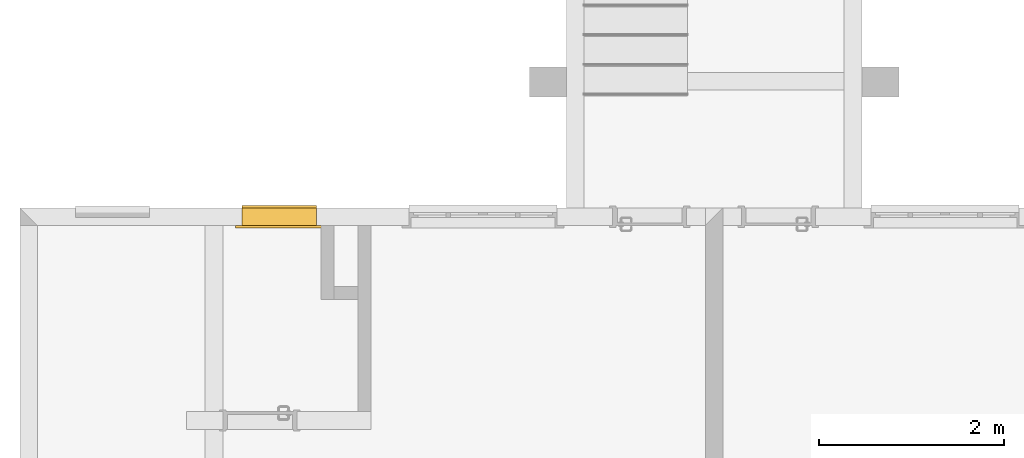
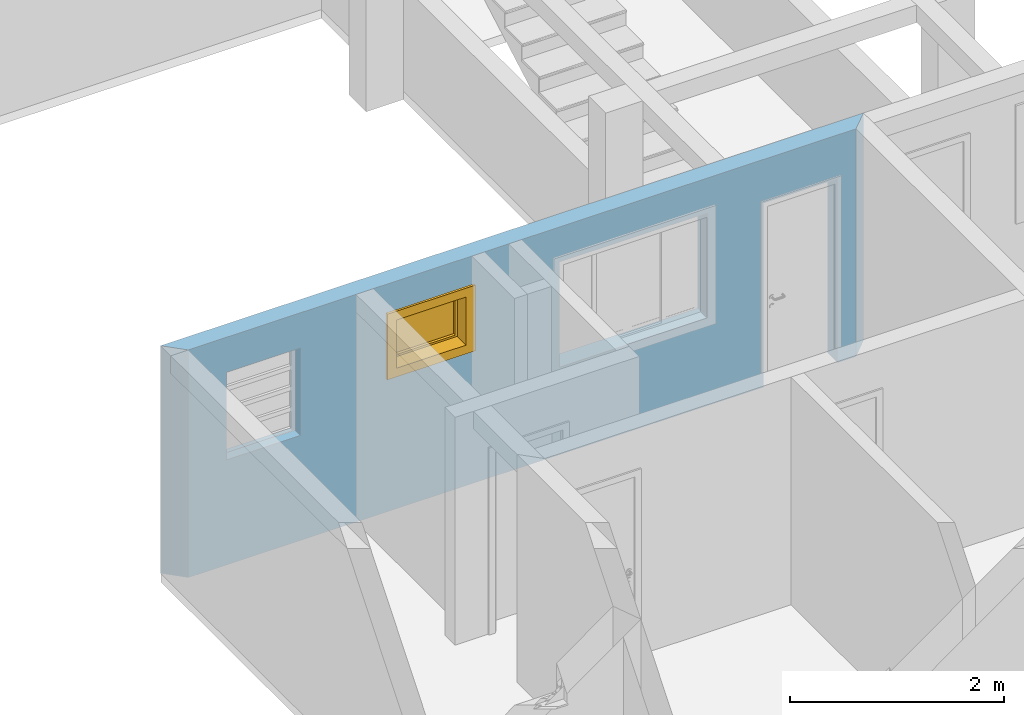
# One storey, part 13 of 47: 1 window, 4 openings, plus 1 element that does not belong to this part.
"""IFC2X3 building model written with IfcOpenShell, lengths in millimetres."""

from ifc_helpers import new_model, entity, si_unit, converted_unit, derived_unit, money_unit, direction, frame, origin_with_axes, origin_2d_with_axis, place, context, subcontext, project, spatial, polyline, rectangle, outline, extrude, open_shell, faceted_brep, surface_model, source, transform, mapped, material, layer, layer_set, layer_usage, type_object, element, fill, save


model = new_model("IFC2X3")

# Units and contexts
model_context = context("Model", 3, precision=0.01, world=origin_with_axes(), true_north=direction((0.0, 1.0)))
body_context = subcontext(model_context, "Body", "Model", "MODEL_VIEW")
ifc_project = project(units=[si_unit("LENGTHUNIT", "METRE", prefix="MILLI"), si_unit("AREAUNIT", "SQUARE_METRE"), si_unit("VOLUMEUNIT", "CUBIC_METRE"), converted_unit("PLANEANGLEUNIT", "DEGREE", entity("IfcPlaneAngleMeasure", 0.0174532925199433), si_unit("PLANEANGLEUNIT", "RADIAN"), dimensions=[0, 0, 0, 0, 0, 0, 0]), money_unit("USD"), converted_unit("TIMEUNIT", "Year", entity("IfcTimeMeasure", 31557600.0), si_unit("TIMEUNIT", "SECOND"), dimensions=[0, 0, 1, 0, 0, 0, 0]), si_unit("MASSUNIT", "GRAM", prefix="KILO"), si_unit("THERMODYNAMICTEMPERATUREUNIT", "DEGREE_CELSIUS"), si_unit("LUMINOUSINTENSITYUNIT", "LUMEN"), si_unit("ENERGYUNIT", "JOULE", prefix="MEGA"), derived_unit("THERMALCONDUCTANCEUNIT", [(si_unit("POWERUNIT", "WATT"), 1), (si_unit("LENGTHUNIT", "METRE"), -1), (si_unit("THERMODYNAMICTEMPERATUREUNIT", "KELVIN"), -1)]), derived_unit("SPECIFICHEATCAPACITYUNIT", [(si_unit("ENERGYUNIT", "JOULE"), 1), (si_unit("MASSUNIT", "GRAM", prefix="KILO"), -1), (si_unit("THERMODYNAMICTEMPERATUREUNIT", "KELVIN"), -1)]), derived_unit("MASSDENSITYUNIT", [(si_unit("MASSUNIT", "GRAM", prefix="KILO"), 1), (si_unit("VOLUMEUNIT", "CUBIC_METRE"), -1)])], contexts=[model_context])

# Site, building, storey
site_placement = place(None, origin_with_axes())
site = spatial("IfcSite", under=ifc_project, at=site_placement, Name="Local", CompositionType="ELEMENT")
building_placement = place(site_placement, origin_with_axes())
building = spatial("IfcBuilding", under=site, at=building_placement, Name="Construção", CompositionType="ELEMENT")
storey_placement = place(building_placement, origin_with_axes())
storey = spatial("IfcBuildingStorey", under=building, at=storey_placement, Name="Pavimento Tipo", CompositionType="ELEMENT", Elevation=0.0)

# Wall, openings, window
ifc_material = material(Name="Concreto - Estrutural")
ifc_layer = layer(ifc_material, 190.0, ventilated="UNKNOWN")
ifc_layer_set = layer_set([ifc_layer], Name="Concreto - Estrutural 190")
ifc_layer_usage = layer_usage(ifc_layer_set, "AXIS2", "NEGATIVE", 190.0)
wall_type = type_object("IfcWallType", Name="Concreto - Estrutural 190", PredefinedType="NOTDEFINED")
wall_placement = place(storey_placement, frame((852.5669975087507, 5186.981417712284, 0.0), z_axis=(0.0, 0.0, 1.0), x_axis=(-1.0, 0.0, 0.0)))
wall = element("IfcWallStandardCase", 1, at=wall_placement, inside=storey, type_object=wall_type, material=ifc_layer_usage, Name="Apartamento 3 - Parede-003", context=body_context, shape_type="SweptSolid", body=[
    extrude(outline(polyline([(-190.0000000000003, 0.0), (7399.999999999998, 0.0), (7209.999999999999, 190.0000000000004), (0.0, 190.0000000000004), (-190.0000000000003, 0.0)])), origin_with_axes(), (0.0, 0.0, 1.0), 2600.0),
])
opening_1_placement = place(wall_placement, frame((2400.0, 0.0, 1000.0), z_axis=(0.0, 0.0, 1.0), x_axis=(1.0, 0.0, 0.0)))
element("IfcOpeningElement", 2, at=opening_1_placement, cuts=wall, Name="Apartamento 3 - J01", context=body_context, shape_type="SweptSolid", body=[
    extrude(rectangle(XDim=1600.0, YDim=1200.0, at=origin_2d_with_axis()), frame((0.0, 50.00000000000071, 600.0000000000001), z_axis=(0.0, 1.0, 0.0), x_axis=(1.0, 0.0, 0.0)), (0.0, 0.0, 1.0), 330.0),
    extrude(rectangle(XDim=1600.0, YDim=1200.0, at=origin_2d_with_axis()), frame((0.0, 50.00000000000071, 600.0000000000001), z_axis=(0.0, -1.0, 0.0), x_axis=(1.0, 0.0, 0.0)), (0.0, 0.0, 1.0), 240.0),
    extrude(rectangle(XDim=1750.0, YDim=1350.0, at=origin_2d_with_axis()), frame((0.0, 190.0000000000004, 599.9999999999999), z_axis=(0.0, 1.0, 0.0), x_axis=(1.0, 0.0, 0.0)), (0.0, 0.0, 1.0), 240.0),
])
opening_2_placement = place(wall_placement, frame((4600.0, 0.0, 1600.0), z_axis=(0.0, 0.0, 1.0), x_axis=(1.0, 0.0, 0.0)))
opening_2 = element("IfcOpeningElement", 3, at=opening_2_placement, cuts=wall, Name="Apartamento 3 - J02", context=body_context, shape_type="SweptSolid", body=[
    extrude(rectangle(XDim=799.9999999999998, YDim=599.9999999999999, at=origin_2d_with_axis()), frame((0.0, 190.0000000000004, 299.9999999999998), z_axis=(0.0, -1.0, 0.0), x_axis=(-1.0, 0.0, 0.0)), (0.0, 0.0, 1.0), 570.0000000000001),
    extrude(rectangle(XDim=799.9999999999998, YDim=30.00000000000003, at=origin_2d_with_axis()), frame((0.0, 35.00000000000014, -15.00000000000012), z_axis=(0.0, 1.0, 0.0), x_axis=(-1.0, 0.0, 0.0)), (0.0, 0.0, -1.0), 225.0),
    extrude(rectangle(XDim=949.9999999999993, YDim=750.0000000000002, at=origin_2d_with_axis()), frame((0.0, 190.0000000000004, 300.0000000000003), z_axis=(0.0, -1.0, 0.0), x_axis=(-1.0, 0.0, 0.0)), (0.0, 0.0, -1.0), 190.0),
])
opening_3_placement = place(wall_placement, frame((6399.999999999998, 0.0, 1200.0), z_axis=(0.0, 0.0, 1.0), x_axis=(1.0, 0.0, 0.0)))
element("IfcOpeningElement", 4, at=opening_3_placement, cuts=wall, Name="Apartamento 3 - J03", context=body_context, shape_type="SweptSolid", body=[
    extrude(rectangle(XDim=800.0000000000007, YDim=999.9999999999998, at=origin_2d_with_axis()), frame((0.0, 50.00000000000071, 500.0), z_axis=(0.0, -1.0, 0.0), x_axis=(-1.0, 0.0, 0.0)), (0.0, 0.0, -1.0), 330.0),
    extrude(rectangle(XDim=800.0000000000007, YDim=999.9999999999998, at=origin_2d_with_axis()), frame((0.0, 50.00000000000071, 500.0), z_axis=(0.0, 1.0, 0.0), x_axis=(-1.0, 0.0, 0.0)), (0.0, 0.0, -1.0), 240.0),
    extrude(rectangle(XDim=800.0000000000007, YDim=30.00000000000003, at=origin_2d_with_axis()), frame((0.0, 85.00000000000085, -15.00000000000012), z_axis=(0.0, 1.0, 0.0), x_axis=(-1.0, 0.0, 0.0)), (0.0, 0.0, -1.0), 225.0),
])
opening_4_placement = place(wall_placement, frame((600.0000000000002, 0.0, 0.0), z_axis=(0.0, 0.0, 1.0), x_axis=(1.0, 0.0, 0.0)))
element("IfcOpeningElement", 5, at=opening_4_placement, cuts=wall, Name="Apartamento 3 - P01", context=body_context, shape_type="SweptSolid", body=[
    extrude(rectangle(XDim=800.0, YDim=2100.0, at=origin_2d_with_axis()), frame((0.0, 190.0000000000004, 1050.0), z_axis=(0.0, 1.0, 0.0), x_axis=(-1.0, 0.0, 0.0)), (0.0, 0.0, -1.0), 570.0000000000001),
    extrude(rectangle(XDim=870.0000000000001, YDim=2135.0, at=origin_2d_with_axis()), frame((0.0, 190.0000000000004, 1067.5), z_axis=(0.0, 1.0, 0.0), x_axis=(-1.0, 0.0, 0.0)), (0.0, 0.0, 1.0), 190.0),
    extrude(rectangle(XDim=870.0000000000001, YDim=2135.0, at=origin_2d_with_axis()), frame((0.0, 0.0, 1067.5), z_axis=(0.0, -1.0, 0.0), x_axis=(-1.0, 0.0, 0.0)), (0.0, 0.0, 1.0), 190.0),
])
window_style = type_object("IfcWindowStyle", Name="Janela 27", ConstructionType="NOTDEFINED", OperationType="SINGLE_PANEL", ParameterTakesPrecedence=False, Sizeable=False)
shared_shape = source(origin_with_axes(), body_context, "Body", "SurfaceModel", [
    faceted_brep([(-400.0, -34.99999999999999, 0.0), (400.0, -34.99999999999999, 0.0), (400.0, -24.99999999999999, 0.0), (-400.0, -24.99999999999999, 0.0), (-400.0, -34.99999999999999, -30.0), (400.0, -34.99999999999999, -29.99999999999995), (400.0, 25.0, -29.99999999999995), (400.0, 25.0, -17.02704173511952), (400.0, -24.99999999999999, -9.999999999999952), (-400.0, -24.99999999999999, -10.0), (-400.0, 25.0, -17.02704173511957), (-400.0, 25.0, -30.0)], [[[0, 1, 2, 3]], [[4, 5, 1, 0]], [[1, 5, 6, 7, 8, 2]], [[3, 2, 8, 9]], [[0, 3, 9, 10, 11, 4]], [[11, 6, 5, 4]], [[10, 7, 6, 11]], [[9, 8, 7, 10]]]),
    faceted_brep([(-400.0, -49.99999999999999, 0.0), (400.0, -49.99999999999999, 0.0), (400.0, -190.0, 0.0), (-400.0, -190.0, 0.0), (-400.0, -50.00000000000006, 600.0), (400.0, -50.00000000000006, 600.0), (-375.0, -49.99999999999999, 24.99999999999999), (375.0, -49.99999999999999, 24.99999999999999), (375.0, -50.00000000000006, 575.0), (-375.0, -50.00000000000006, 575.0), (400.0, -190.0000000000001, 600.0), (-400.0, -190.0000000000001, 600.0), (-375.0, -190.0, 24.99999999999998), (-375.0, -190.0000000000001, 575.0), (375.0, -190.0000000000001, 575.0), (375.0, -190.0, 24.99999999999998)], [[[0, 1, 2, 3]], [[0, 4, 5, 1], [6, 7, 8, 9]], [[1, 5, 10, 2]], [[3, 2, 10, 11], [12, 13, 14, 15]], [[4, 0, 3, 11]], [[5, 4, 11, 10]], [[7, 6, 12, 15]], [[8, 7, 15, 14]], [[9, 8, 14, 13]], [[6, 9, 13, 12]]]),
    faceted_brep([(-475.0, -215.0, -75.00000000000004), (-475.0, -190.0, -75.00000000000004), (-375.0, -190.0, 24.99999999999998), (-375.0, -215.0, 24.99999999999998), (-475.0, -215.0000000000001, 675.0), (-475.0, -190.0000000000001, 675.0), (-375.0, -190.0000000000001, 575.0), (-375.0, -215.0000000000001, 575.0)], [[[0, 1, 2, 3]], [[4, 5, 1, 0]], [[1, 5, 6, 2]], [[3, 2, 6, 7]], [[0, 3, 7, 4]], [[7, 6, 5, 4]]]),
    faceted_brep([(475.0, -215.0000000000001, 675.0), (475.0, -190.0000000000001, 675.0), (375.0, -190.0000000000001, 575.0), (375.0, -215.0000000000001, 575.0), (475.0, -215.0, -75.00000000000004), (475.0, -190.0, -75.00000000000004), (375.0, -190.0, 24.99999999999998), (375.0, -215.0, 24.99999999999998)], [[[0, 1, 2, 3]], [[4, 5, 1, 0]], [[1, 5, 6, 2]], [[3, 2, 6, 7]], [[0, 3, 7, 4]], [[7, 6, 5, 4]]]),
    faceted_brep([(475.0, -215.0, -75.00000000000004), (475.0, -190.0, -75.00000000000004), (375.0, -190.0, 24.99999999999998), (375.0, -215.0, 24.99999999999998), (-475.0, -215.0, -75.00000000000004), (-475.0, -190.0, -75.00000000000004), (-375.0, -190.0, 24.99999999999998), (-375.0, -215.0, 24.99999999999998)], [[[0, 1, 2, 3]], [[4, 5, 1, 0]], [[1, 5, 6, 2]], [[3, 2, 6, 7]], [[0, 3, 7, 4]], [[7, 6, 5, 4]]]),
    faceted_brep([(-475.0, -215.0000000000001, 674.9999999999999), (-475.0, -190.0000000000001, 674.9999999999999), (-375.0, -190.0000000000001, 575.0), (-375.0, -215.0000000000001, 575.0), (475.0, -215.0000000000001, 674.9999999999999), (475.0, -190.0000000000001, 674.9999999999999), (375.0, -190.0000000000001, 575.0), (375.0, -215.0000000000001, 575.0)], [[[0, 1, 2, 3]], [[4, 5, 1, 0]], [[1, 5, 6, 2]], [[3, 2, 6, 7]], [[0, 3, 7, 4]], [[7, 6, 5, 4]]]),
    faceted_brep([(-373.0000000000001, 0.0, 552.9999999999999), (-400.0, 0.0, 552.9999999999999), (-400.0, -50.00000000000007, 552.9999999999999), (-353.0000000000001, -50.00000000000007, 552.9999999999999), (-353.0000000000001, -20.00000000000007, 552.9999999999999), (-373.0000000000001, -20.00000000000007, 552.9999999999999), (-373.0000000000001, 0.0, 46.99999999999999), (-400.0, 0.0, 46.99999999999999), (-400.0, -50.00000000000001, 46.99999999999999), (-353.0000000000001, -50.00000000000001, 46.99999999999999), (-353.0000000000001, -20.00000000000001, 46.99999999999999), (-373.0000000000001, -20.00000000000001, 47.00000000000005)], [[[0, 1, 2, 3, 4, 5]], [[6, 7, 1, 0]], [[1, 7, 8, 2]], [[2, 8, 9, 3]], [[4, 3, 9, 10]], [[10, 11, 5, 4]], [[5, 11, 6, 0]], [[11, 10, 9, 8, 7, 6]]]),
    faceted_brep([(353.0000000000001, -20.00000000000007, 552.9999999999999), (353.0000000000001, -50.00000000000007, 552.9999999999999), (400.0, -50.00000000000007, 552.9999999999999), (400.0, 0.0, 552.9999999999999), (373.0000000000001, 0.0, 552.9999999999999), (373.0000000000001, -20.00000000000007, 552.9999999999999), (353.0000000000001, -20.00000000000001, 46.99999999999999), (353.0000000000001, -50.00000000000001, 46.99999999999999), (400.0, -50.00000000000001, 46.99999999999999), (400.0, 0.0, 46.99999999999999), (373.0000000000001, 0.0, 46.99999999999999), (373.0000000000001, -20.00000000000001, 46.99999999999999)], [[[0, 1, 2, 3, 4, 5]], [[6, 7, 1, 0]], [[8, 2, 1, 7]], [[9, 3, 2, 8]], [[4, 3, 9, 10]], [[10, 11, 5, 4]], [[5, 11, 6, 0]], [[11, 10, 9, 8, 7, 6]]]),
    faceted_brep([(353.0000000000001, -20.00000000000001, 46.99999999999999), (353.0000000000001, -50.00000000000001, 46.99999999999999), (400.0, -50.00000000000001, 46.99999999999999), (400.0, 0.0, 46.99999999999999), (373.0000000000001, 0.0, 46.99999999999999), (373.0000000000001, -20.00000000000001, 46.99999999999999), (-353.0000000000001, -20.00000000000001, 46.99999999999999), (-353.0000000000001, -50.00000000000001, 46.99999999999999), (-400.0, -50.00000000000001, 46.99999999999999), (-400.0, -50.0, 0.0), (400.0, -50.0, 0.0), (400.0, 0.0, 0.0), (-373.0000000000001, 0.0, 27.00000000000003), (373.0000000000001, 0.0, 27.00000000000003), (-400.0, 0.0, 0.0), (-400.0, 0.0, 46.99999999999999), (-373.0000000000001, 0.0, 46.99999999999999), (373.0000000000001, -20.0, 27.00000000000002), (-373.0000000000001, -20.0, 27.00000000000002), (-373.0000000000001, -20.00000000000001, 47.00000000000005)], [[[0, 1, 2, 3, 4, 5]], [[6, 7, 1, 0]], [[8, 9, 10, 2, 1, 7]], [[11, 3, 2, 10]], [[12, 13, 4, 3, 11, 14, 15, 16]], [[13, 17, 5, 4]], [[5, 17, 18, 19, 6, 0]], [[19, 16, 15, 8, 7, 6]], [[15, 14, 9, 8]], [[14, 11, 10, 9]], [[12, 18, 17, 13]], [[19, 18, 12, 16]]]),
    faceted_brep([(-373.0000000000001, 0.0, 552.9999999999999), (-400.0, 0.0, 552.9999999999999), (-400.0, 0.0, 600.0), (400.0, 0.0, 600.0), (400.0, 0.0, 552.9999999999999), (373.0000000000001, 0.0, 552.9999999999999), (373.0000000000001, 0.0, 573.0), (-373.0000000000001, 0.0, 573.0), (-373.0000000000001, -20.00000000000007, 552.9999999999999), (-353.0000000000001, -20.00000000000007, 552.9999999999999), (-353.0000000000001, -50.00000000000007, 552.9999999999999), (-400.0, -50.00000000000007, 552.9999999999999), (-400.0, -50.00000000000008, 600.0), (400.0, -50.00000000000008, 600.0), (400.0, -50.00000000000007, 552.9999999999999), (373.0000000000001, -20.00000000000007, 552.9999999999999), (353.0000000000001, -50.00000000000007, 552.9999999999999), (353.0000000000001, -20.00000000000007, 552.9999999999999), (373.0000000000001, -20.00000000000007, 573.0), (-373.0000000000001, -20.00000000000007, 573.0)], [[[0, 1, 2, 3, 4, 5, 6, 7]], [[8, 9, 10, 11, 1, 0]], [[2, 1, 11, 12]], [[3, 2, 12, 13]], [[4, 3, 13, 14]], [[15, 5, 4, 14, 16, 17]], [[5, 15, 18, 6]], [[6, 18, 19, 7]], [[7, 19, 8, 0]], [[17, 9, 8, 19, 18, 15]], [[17, 16, 10, 9]], [[14, 13, 12, 11, 10, 16]]]),
    faceted_brep([(-323.0000000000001, -20.00000000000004, 522.9999999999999), (-323.0000000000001, 0.0, 522.9999999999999), (-373.0000000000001, 0.0, 522.9999999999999), (-373.0000000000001, -20.00000000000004, 522.9999999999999), (-323.0000000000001, -19.99999999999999, 77.00000000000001), (-323.0000000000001, 0.0, 77.00000000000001), (-373.0000000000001, 0.0, 77.00000000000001), (-373.0000000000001, -19.99999999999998, 77.00000000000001)], [[[0, 1, 2, 3]], [[4, 5, 1, 0]], [[1, 5, 6, 2]], [[3, 2, 6, 7]], [[0, 3, 7, 4]], [[7, 6, 5, 4]]]),
    faceted_brep([(323.0000000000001, -20.00000000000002, 77.00000000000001), (323.0000000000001, 0.0, 77.00000000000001), (373.0000000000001, 0.0, 77.00000000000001), (373.0000000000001, -20.00000000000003, 77.00000000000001), (323.0000000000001, -20.00000000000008, 522.9999999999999), (323.0000000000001, 0.0, 522.9999999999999), (373.0000000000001, 0.0, 522.9999999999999), (373.0000000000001, -20.00000000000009, 522.9999999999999)], [[[0, 1, 2, 3]], [[4, 5, 1, 0]], [[1, 5, 6, 2]], [[3, 2, 6, 7]], [[0, 3, 7, 4]], [[7, 6, 5, 4]]]),
    faceted_brep([(373.0000000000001, -20.00000000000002, 27.0), (373.0000000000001, 0.0, 27.00000000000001), (373.0000000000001, 0.0, 77.00000000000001), (373.0000000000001, -20.00000000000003, 77.00000000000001), (-373.0000000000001, -19.99999999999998, 27.0), (-373.0000000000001, 0.0, 27.00000000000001), (-373.0000000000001, 0.0, 77.00000000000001), (-323.0000000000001, 0.0, 77.00000000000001), (323.0000000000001, 0.0, 77.00000000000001), (323.0000000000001, -20.00000000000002, 77.00000000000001), (-323.0000000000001, -19.99999999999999, 77.00000000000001), (-373.0000000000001, -19.99999999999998, 77.00000000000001)], [[[0, 1, 2, 3]], [[4, 5, 1, 0]], [[1, 5, 6, 7, 8, 2]], [[3, 2, 8, 9]], [[0, 3, 9, 10, 11, 4]], [[11, 6, 5, 4]], [[10, 7, 6, 11]], [[9, 8, 7, 10]]]),
    faceted_brep([(-373.0000000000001, -20.00000000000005, 573.0), (-373.0000000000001, 0.0, 573.0), (-373.0000000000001, 0.0, 522.9999999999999), (-373.0000000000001, -20.00000000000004, 522.9999999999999), (373.0000000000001, -20.00000000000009, 573.0), (373.0000000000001, 0.0, 573.0), (373.0000000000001, 0.0, 522.9999999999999), (323.0000000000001, 0.0, 522.9999999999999), (-323.0000000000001, 0.0, 522.9999999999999), (-323.0000000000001, -20.00000000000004, 522.9999999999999), (323.0000000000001, -20.00000000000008, 522.9999999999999), (373.0000000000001, -20.00000000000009, 522.9999999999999)], [[[0, 1, 2, 3]], [[4, 5, 1, 0]], [[1, 5, 6, 7, 8, 2]], [[3, 2, 8, 9]], [[0, 3, 9, 10, 11, 4]], [[11, 6, 5, 4]], [[10, 7, 6, 11]], [[9, 8, 7, 10]]]),
    surface_model("IfcShellBasedSurfaceModel", [(-323.0000000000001, -20.00000000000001, 77.00000000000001), (323.0000000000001, -20.00000000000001, 77.00000000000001), (323.0000000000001, -20.00000000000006, 522.9999999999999), (-323.0000000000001, -20.00000000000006, 522.9999999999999)], [open_shell([[[0, 1, 2, 3]]])]),
    surface_model("IfcShellBasedSurfaceModel", [(-323.0000000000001, 0.0, 77.00000000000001), (-323.0000000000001, 0.0, 522.9999999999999), (323.0000000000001, 0.0, 522.9999999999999), (323.0000000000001, 0.0, 77.00000000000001)], [open_shell([[[0, 1, 2, 3]]])]),
])
window_placement = place(opening_2_placement, frame((400.0000000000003, 0.0, 0.0), z_axis=(0.0, 0.0, 1.0), x_axis=(-1.0, 0.0, 0.0)))
window = element("IfcWindow", 6, at=window_placement, inside=storey, type_object=window_style, Name="Apartamento 3 - J02", ObjectType="WINDOW", OverallHeight=600.0, OverallWidth=800.0, context=body_context, shape_type="MappedRepresentation", body=[
    mapped(shared_shape, transform((399.9999999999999, 0.0, 0.0))),
])
fill(opening_2, window)

save(model, "model.ifc")
